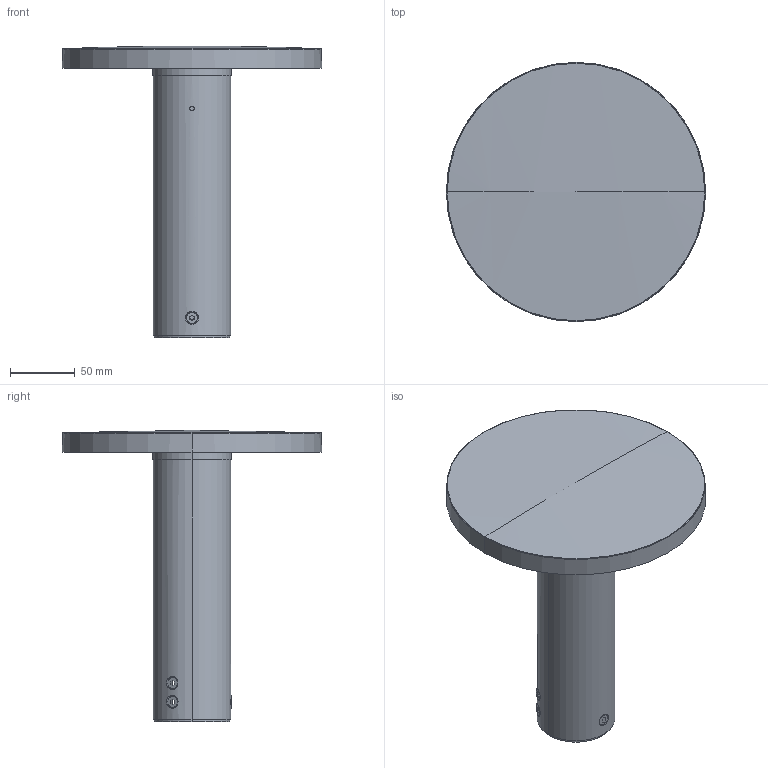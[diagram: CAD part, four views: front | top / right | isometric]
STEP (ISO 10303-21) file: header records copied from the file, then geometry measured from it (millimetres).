
FILE_DESCRIPTION((''),'2;1');
FILE_NAME('STIK-200-H200_SW0001','2025-05-26T16:27:35',('elena.baldelli'),(''),'CREO PARAMETRIC BY PTC INC, 2020354','CREO PARAMETRIC BY PTC INC, 2020354','');
FILE_SCHEMA(('CONFIG_CONTROL_DESIGN'));
Length unit declared in the file: millimetre
Products named in the file (1): STIK-200-H200_SW0001
Bounding box: 200 x 200 x 225 mm (x, y, z)
Surface area: 156637.6 mm2 (no closed solid volume)
Topology: 0 solids, 11 shells, 38 faces, 200 edges, 171 vertices
Faces by surface type: cylinder 14, plane 10, cone 6, torus 6, sphere 2
Entity records: 2721 total; most frequent: CARTESIAN_POINT 1097, DIRECTION 340, ORIENTED_EDGE 246, EDGE_CURVE 198, VERTEX_POINT 171, AXIS2_PLACEMENT_3D 142, CIRCLE 104, EDGE_LOOP 71
